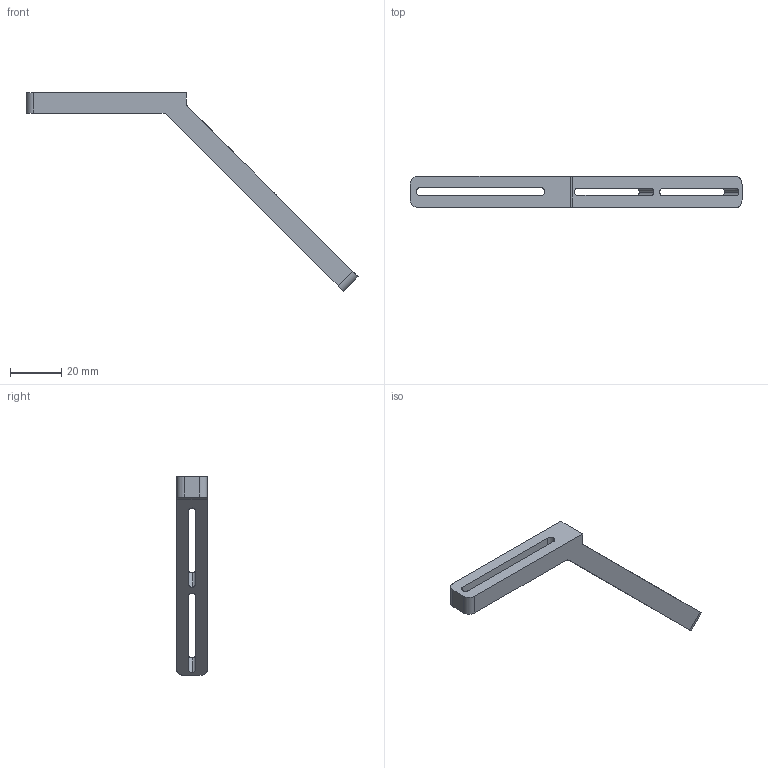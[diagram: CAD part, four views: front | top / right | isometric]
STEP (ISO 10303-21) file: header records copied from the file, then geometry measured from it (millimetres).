
FILE_DESCRIPTION(/* description */ ('VariCAD 2010-3.03 AP-214'),/* implementation_level */ '2;1');
FILE_NAME(/* name */ '0353-19-54',/* time_stamp */ '2011-01-17T17:18:40-07:00',/* author */ (''),/* organization */ (''),/* preprocessor_version */ 'ST-DEVELOPER v12',/* originating_system */ 'VariCAD 2010-3.03; kernel version (20100102)',/* authorisation */ '');
FILE_SCHEMA (('AUTOMOTIVE_DESIGN'));
Length unit declared in the file: millimetre
Products named in the file (1): Part
Bounding box: 129.47 x 12 x 77.54 mm (x, y, z)
Volume: 11931.8 mm3; surface area: 7927.9 mm2
Topology: 1 solids, 1 shells, 37 faces, 101 edges, 66 vertices
Faces by surface type: plane 19, cylinder 18
Entity records: 1238 total; most frequent: CARTESIAN_POINT 238, DIRECTION 207, ORIENTED_EDGE 202, EDGE_CURVE 101, AXIS2_PLACEMENT_3D 71, VERTEX_POINT 66, LINE 65, VECTOR 65
